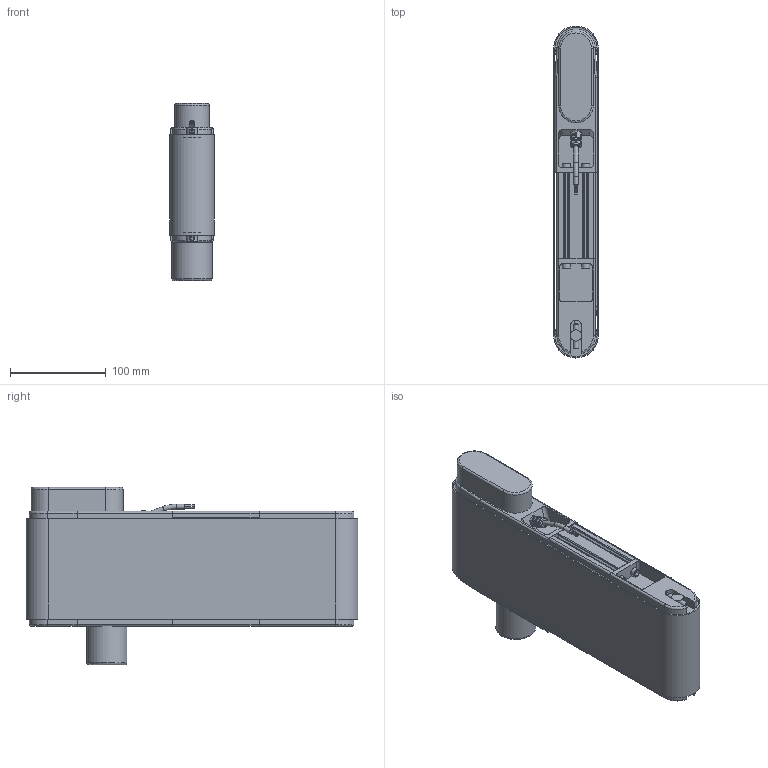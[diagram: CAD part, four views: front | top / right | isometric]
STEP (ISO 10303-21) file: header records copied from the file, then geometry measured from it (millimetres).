
FILE_DESCRIPTION(/* description */ (''),/* implementation_level */ '2;1');
FILE_NAME(/* name */ 'G:\DATEN\CAD\Förderband\Marketing\3D-Modelle (Standard)\FR-40-120-Q\FR-40-120-Q-300-K (Motorendrohr 40 mm).stp',/* time_stamp */ '2019-05-09T08:22:28+02:00',/* author */ ('melanie.ochs'),/* organization */ (''),/* preprocessor_version */ 'ST-DEVELOPER v17',/* originating_system */ 'Autodesk Inventor 2019',/* authorisation */ '');
FILE_SCHEMA (('CONFIG_CONTROL_DESIGN'));
Length unit declared in the file: millimetre
Products named in the file (1): FR-40-120-Q-300-K (Motorendrohr 40 mm)
Bounding box: 46.6 x 346.6 x 185 mm (x, y, z)
Volume: 1409172.4 mm3; surface area: 422434.6 mm2
Topology: 31 solids, 32 shells, 869 faces, 2355 edges, 1600 vertices
Faces by surface type: plane 439, cylinder 274, cone 65, bspline 61, torus 30
Full cylindrical faces by diameter (mm): 1 x6, 4 x6, 4.3 x4, 4.65 x1, 4.917 x1, 5 x11, 5.5 x8, 6 x2, 6.5 x1, 6.773 x1, 6.917 x2, 8 x7, 8.3 x8, 8.5 x8, 8.773 x1, 10 x1, 11 x1, 12 x3, 25 x2, 28 x4, 40.917 x1, 42 x1, 44 x2
Entity records: 29133 total; most frequent: CARTESIAN_POINT 6163, ORIENTED_EDGE 4674, DIRECTION 4526, EDGE_CURVE 2337, AXIS2_PLACEMENT_3D 1637, VERTEX_POINT 1600, LINE 1252, VECTOR 1252
